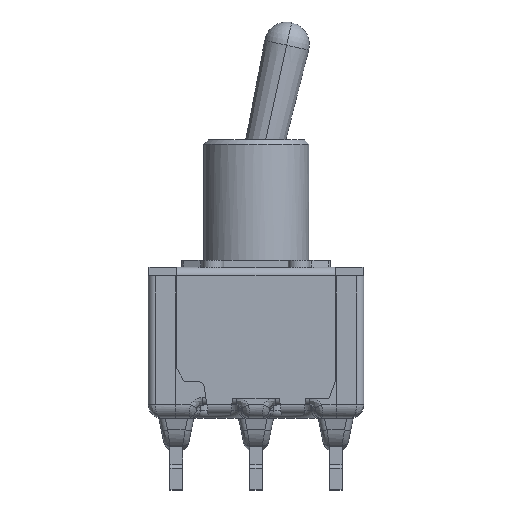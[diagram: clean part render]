
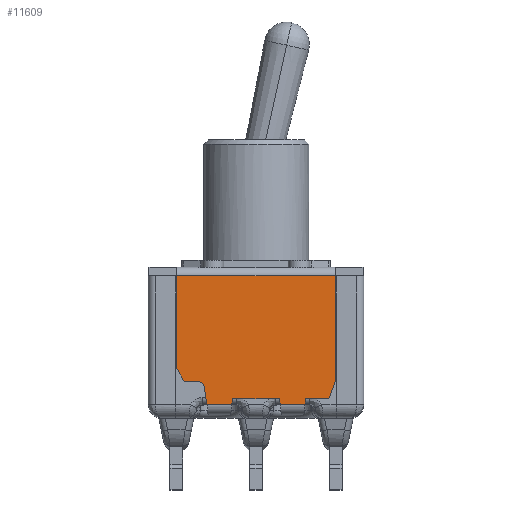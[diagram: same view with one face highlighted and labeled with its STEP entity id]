
A CAD part, top view. The second image highlights one B-rep face of the part: STEP entity #11609.
In plain terms, the highlighted planar face has unit normal (0, 0, 1).
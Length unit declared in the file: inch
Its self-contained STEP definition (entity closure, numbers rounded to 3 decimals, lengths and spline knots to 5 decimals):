
#884=DIRECTION('',(1.,0.,0.));
#885=VECTOR('',#884,0.05719);
#886=CARTESIAN_POINT('',(-0.1136,-0.298,0.133));
#887=LINE('',#886,#885);
#888=DIRECTION('',(0.174,-0.985,0.));
#889=VECTOR('',#888,0.04123);
#890=CARTESIAN_POINT('',(-0.12076,-0.2574,0.133));
#891=LINE('',#890,#889);
#892=CARTESIAN_POINT('',(-0.13553,-0.26,0.133));
#893=DIRECTION('',(0.,0.,-1.));
#894=DIRECTION('',(0.,1.,0.));
#895=AXIS2_PLACEMENT_3D('',#892,#893,#894);
#897=DIRECTION('',(1.,0.,0.));
#898=VECTOR('',#897,0.03115);
#899=CARTESIAN_POINT('',(-0.16668,-0.245,0.133));
#900=LINE('',#899,#898);
#901=DIRECTION('',(0.5,-0.866,0.));
#902=VECTOR('',#901,0.03464);
#903=CARTESIAN_POINT('',(-0.184,-0.215,0.133));
#904=LINE('',#903,#902);
#905=DIRECTION('',(0.,-1.,0.));
#906=VECTOR('',#905,0.215);
#907=CARTESIAN_POINT('',(-0.184,0.,0.133));
#908=LINE('',#907,#906);
#909=DIRECTION('',(-1.,0.,0.));
#910=VECTOR('',#909,0.368);
#911=CARTESIAN_POINT('',(0.184,0.,0.133));
#912=LINE('',#911,#910);
#913=DIRECTION('',(0.,-1.,0.));
#914=VECTOR('',#913,0.245);
#915=CARTESIAN_POINT('',(0.184,0.,0.133));
#916=LINE('',#915,#914);
#917=DIRECTION('',(0.342,0.94,0.));
#918=VECTOR('',#917,0.04257);
#919=CARTESIAN_POINT('',(0.16944,-0.285,0.133));
#920=LINE('',#919,#918);
#921=DIRECTION('',(1.,0.,0.));
#922=VECTOR('',#921,0.05355);
#923=CARTESIAN_POINT('',(0.11589,-0.285,0.133));
#924=LINE('',#923,#922);
#925=DIRECTION('',(0.174,0.985,0.));
#926=VECTOR('',#925,0.0132);
#927=CARTESIAN_POINT('',(0.1136,-0.298,0.133));
#928=LINE('',#927,#926);
#929=DIRECTION('',(1.,0.,0.));
#930=VECTOR('',#929,0.05719);
#931=CARTESIAN_POINT('',(0.0564,-0.298,0.133));
#932=LINE('',#931,#930);
#933=DIRECTION('',(0.174,-0.985,0.));
#934=VECTOR('',#933,0.0132);
#935=CARTESIAN_POINT('',(0.05411,-0.285,0.133));
#936=LINE('',#935,#934);
#937=DIRECTION('',(1.,0.,0.));
#938=VECTOR('',#937,0.10822);
#939=CARTESIAN_POINT('',(-0.05411,-0.285,0.133));
#940=LINE('',#939,#938);
#941=DIRECTION('',(0.174,0.985,0.));
#942=VECTOR('',#941,0.0132);
#943=CARTESIAN_POINT('',(-0.0564,-0.298,0.133));
#944=LINE('',#943,#942);
#9688=CARTESIAN_POINT('',(-0.184,-0.215,0.133));
#9689=CARTESIAN_POINT('',(-0.16668,-0.245,0.133));
#9690=VERTEX_POINT('',#9688);
#9691=VERTEX_POINT('',#9689);
#9692=CARTESIAN_POINT('',(-0.13553,-0.245,0.133));
#9693=VERTEX_POINT('',#9692);
#9694=CARTESIAN_POINT('',(-0.12076,-0.2574,0.133));
#9695=VERTEX_POINT('',#9694);
#9700=CARTESIAN_POINT('',(-0.05411,-0.285,0.133));
#9701=CARTESIAN_POINT('',(0.05411,-0.285,0.133));
#9702=VERTEX_POINT('',#9700);
#9703=VERTEX_POINT('',#9701);
#9708=CARTESIAN_POINT('',(0.11589,-0.285,0.133));
#9709=CARTESIAN_POINT('',(0.16944,-0.285,0.133));
#9710=VERTEX_POINT('',#9708);
#9711=VERTEX_POINT('',#9709);
#9712=CARTESIAN_POINT('',(0.184,-0.245,0.133));
#9713=VERTEX_POINT('',#9712);
#9832=CARTESIAN_POINT('',(-0.184,0.,0.133));
#9833=VERTEX_POINT('',#9832);
#9834=CARTESIAN_POINT('',(0.184,0.,0.133));
#9835=VERTEX_POINT('',#9834);
#9872=CARTESIAN_POINT('',(-0.1136,-0.298,0.133));
#9873=VERTEX_POINT('',#9872);
#9874=CARTESIAN_POINT('',(-0.0564,-0.298,0.133));
#9875=VERTEX_POINT('',#9874);
#9876=CARTESIAN_POINT('',(0.0564,-0.298,0.133));
#9877=VERTEX_POINT('',#9876);
#9878=CARTESIAN_POINT('',(0.1136,-0.298,0.133));
#9879=VERTEX_POINT('',#9878);
#11574=CARTESIAN_POINT('',(0.2485,0.02,0.133));
#11575=DIRECTION('',(0.,0.,1.));
#11576=DIRECTION('',(0.,-1.,0.));
#11577=AXIS2_PLACEMENT_3D('',#11574,#11575,#11576);
#11578=PLANE('',#11577);
#11580=ORIENTED_EDGE('',*,*,#11579,.F.);
#11582=ORIENTED_EDGE('',*,*,#11581,.F.);
#11584=ORIENTED_EDGE('',*,*,#11583,.F.);
#11586=ORIENTED_EDGE('',*,*,#11585,.F.);
#11588=ORIENTED_EDGE('',*,*,#11587,.F.);
#11590=ORIENTED_EDGE('',*,*,#11589,.F.);
#11591=ORIENTED_EDGE('',*,*,#11545,.F.);
#11592=ORIENTED_EDGE('',*,*,#11559,.T.);
#11594=ORIENTED_EDGE('',*,*,#11593,.F.);
#11596=ORIENTED_EDGE('',*,*,#11595,.F.);
#11598=ORIENTED_EDGE('',*,*,#11597,.F.);
#11600=ORIENTED_EDGE('',*,*,#11599,.F.);
#11602=ORIENTED_EDGE('',*,*,#11601,.F.);
#11604=ORIENTED_EDGE('',*,*,#11603,.F.);
#11606=ORIENTED_EDGE('',*,*,#11605,.F.);
#11607=EDGE_LOOP('',(#11580,#11582,#11584,#11586,#11588,#11590,#11591,#11592,
#11594,#11596,#11598,#11600,#11602,#11604,#11606));
#11608=FACE_OUTER_BOUND('',#11607,.F.);
#11609=ADVANCED_FACE('',(#11608),#11578,.T.);
#896=CIRCLE('',#895,0.015);
#11545=EDGE_CURVE('',#9835,#9833,#912,.T.);
#11559=EDGE_CURVE('',#9835,#9713,#916,.T.);
#11579=EDGE_CURVE('',#9873,#9875,#887,.T.);
#11581=EDGE_CURVE('',#9695,#9873,#891,.T.);
#11583=EDGE_CURVE('',#9693,#9695,#896,.T.);
#11585=EDGE_CURVE('',#9691,#9693,#900,.T.);
#11587=EDGE_CURVE('',#9690,#9691,#904,.T.);
#11589=EDGE_CURVE('',#9833,#9690,#908,.T.);
#11593=EDGE_CURVE('',#9711,#9713,#920,.T.);
#11595=EDGE_CURVE('',#9710,#9711,#924,.T.);
#11597=EDGE_CURVE('',#9879,#9710,#928,.T.);
#11599=EDGE_CURVE('',#9877,#9879,#932,.T.);
#11601=EDGE_CURVE('',#9703,#9877,#936,.T.);
#11603=EDGE_CURVE('',#9702,#9703,#940,.T.);
#11605=EDGE_CURVE('',#9875,#9702,#944,.T.);
